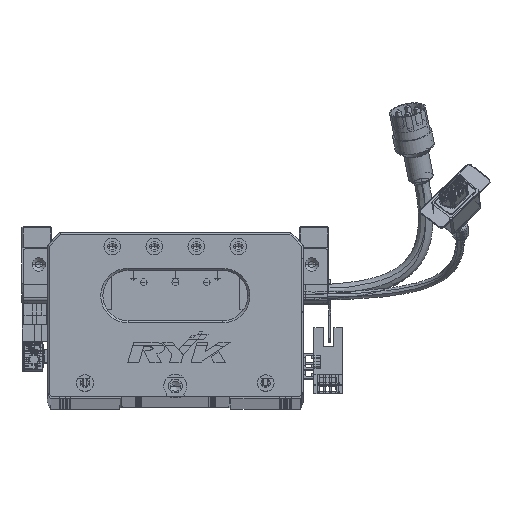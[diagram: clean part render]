
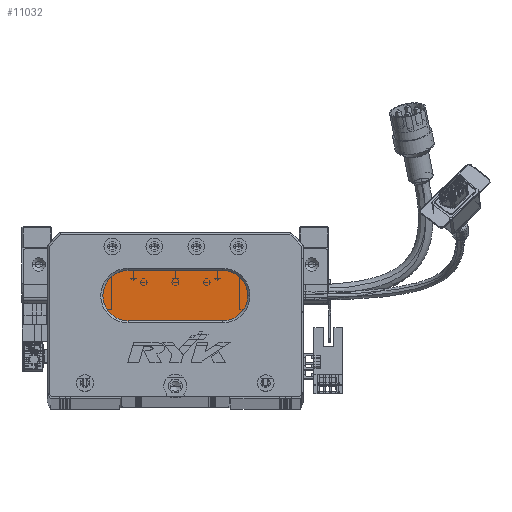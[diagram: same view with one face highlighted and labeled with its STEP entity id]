
A CAD part, top view. The second image highlights one B-rep face of the part: STEP entity #11032.
In plain terms, the highlighted planar face has unit normal (0, 0, 1) as drawn and (0, 0, -1) by its records, which use the part's own axes.
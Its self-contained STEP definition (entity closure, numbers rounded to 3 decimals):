
#2833 = CIRCLE ( 'NONE', #21502, 12. ) ;
#6935 = EDGE_LOOP ( 'NONE', ( #66148, #118651, #127764, #70709, #32551 ) ) ;
#11032 = ADVANCED_FACE ( 'NONE', ( #87584 ), #47092, .T. ) ;
#14822 = LINE ( 'NONE', #61016, #38580 ) ;
#14947 = AXIS2_PLACEMENT_3D ( 'NONE', #117417, #128006, #77637 ) ;
#15112 = EDGE_CURVE ( 'NONE', #63154, #28541, #2833, .T. ) ;
#18097 = EDGE_CURVE ( 'NONE', #130571, #111659, #127334, .T. ) ;
#21502 = AXIS2_PLACEMENT_3D ( 'NONE', #24237, #94887, #123687 ) ;
#24237 = CARTESIAN_POINT ( 'NONE',  ( 83.5, 48., 13. ) ) ;
#26371 = DIRECTION ( 'NONE',  ( 1., 0., 0. ) ) ;
#28061 = AXIS2_PLACEMENT_3D ( 'NONE', #119622, #49757, #79417 ) ;
#28541 = VERTEX_POINT ( 'NONE', #93130 ) ;
#29226 = DIRECTION ( 'NONE',  ( -1., 0., 0. ) ) ;
#32551 = ORIENTED_EDGE ( 'NONE', *, *, #99463, .T. ) ;
#34910 = VERTEX_POINT ( 'NONE', #54784 ) ;
#36487 = CARTESIAN_POINT ( 'NONE',  ( 38.5, 60., 13. ) ) ;
#38580 = VECTOR ( 'NONE', #29226, 1000. ) ;
#39592 = LINE ( 'NONE', #56867, #102775 ) ;
#47092 = PLANE ( 'NONE',  #124523 ) ;
#49757 = DIRECTION ( 'NONE',  ( 0., 0., -1. ) ) ;
#54784 = CARTESIAN_POINT ( 'NONE',  ( 38.5, 36., 13. ) ) ;
#56867 = CARTESIAN_POINT ( 'NONE',  ( 83.5, 60., 13. ) ) ;
#61016 = CARTESIAN_POINT ( 'NONE',  ( 83.5, 36., 13. ) ) ;
#63154 = VERTEX_POINT ( 'NONE', #112038 ) ;
#66148 = ORIENTED_EDGE ( 'NONE', *, *, #15112, .T. ) ;
#67448 = CARTESIAN_POINT ( 'NONE',  ( 83.5, 48., 13. ) ) ;
#70709 = ORIENTED_EDGE ( 'NONE', *, *, #18097, .T. ) ;
#74152 = EDGE_CURVE ( 'NONE', #28541, #34910, #14822, .T. ) ;
#77637 = DIRECTION ( 'NONE',  ( -1., 0., 0. ) ) ;
#79417 = DIRECTION ( 'NONE',  ( -1., 0., 0. ) ) ;
#87584 = FACE_OUTER_BOUND ( 'NONE', #6935, .T. ) ;
#93130 = CARTESIAN_POINT ( 'NONE',  ( 83.5, 36., 13. ) ) ;
#94887 = DIRECTION ( 'NONE',  ( 0., 0., -1. ) ) ;
#99463 = EDGE_CURVE ( 'NONE', #111659, #63154, #39592, .T. ) ;
#99902 = CIRCLE ( 'NONE', #28061, 12. ) ;
#102775 = VECTOR ( 'NONE', #26371, 1000. ) ;
#111659 = VERTEX_POINT ( 'NONE', #36487 ) ;
#112038 = CARTESIAN_POINT ( 'NONE',  ( 83.5, 60., 13. ) ) ;
#114254 = CARTESIAN_POINT ( 'NONE',  ( 26.5, 48., 13. ) ) ;
#117392 = DIRECTION ( 'NONE',  ( -1., 0., 0. ) ) ;
#117417 = CARTESIAN_POINT ( 'NONE',  ( 38.5, 48., 13. ) ) ;
#118603 = EDGE_CURVE ( 'NONE', #34910, #130571, #99902, .T. ) ;
#118651 = ORIENTED_EDGE ( 'NONE', *, *, #74152, .T. ) ;
#119622 = CARTESIAN_POINT ( 'NONE',  ( 38.5, 48., 13. ) ) ;
#123687 = DIRECTION ( 'NONE',  ( -1., 0., 0. ) ) ;
#124523 = AXIS2_PLACEMENT_3D ( 'NONE', #67448, #126678, #117392 ) ;
#126678 = DIRECTION ( 'NONE',  ( 0., 0., -1. ) ) ;
#127334 = CIRCLE ( 'NONE', #14947, 12. ) ;
#127764 = ORIENTED_EDGE ( 'NONE', *, *, #118603, .T. ) ;
#128006 = DIRECTION ( 'NONE',  ( 0., 0., -1. ) ) ;
#130571 = VERTEX_POINT ( 'NONE', #114254 ) ;
